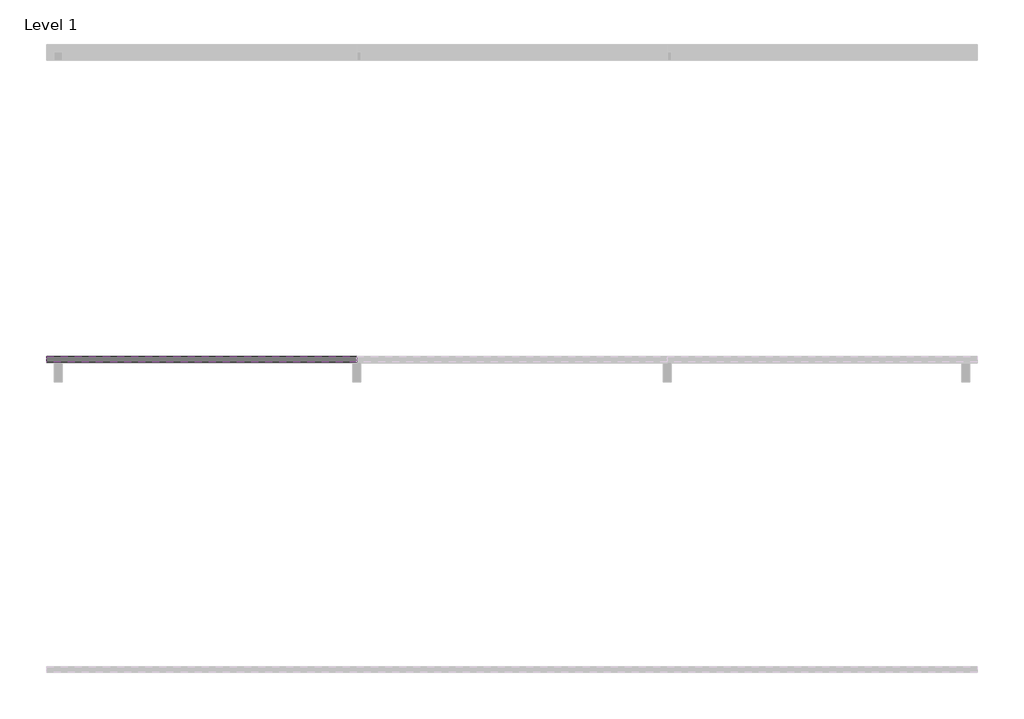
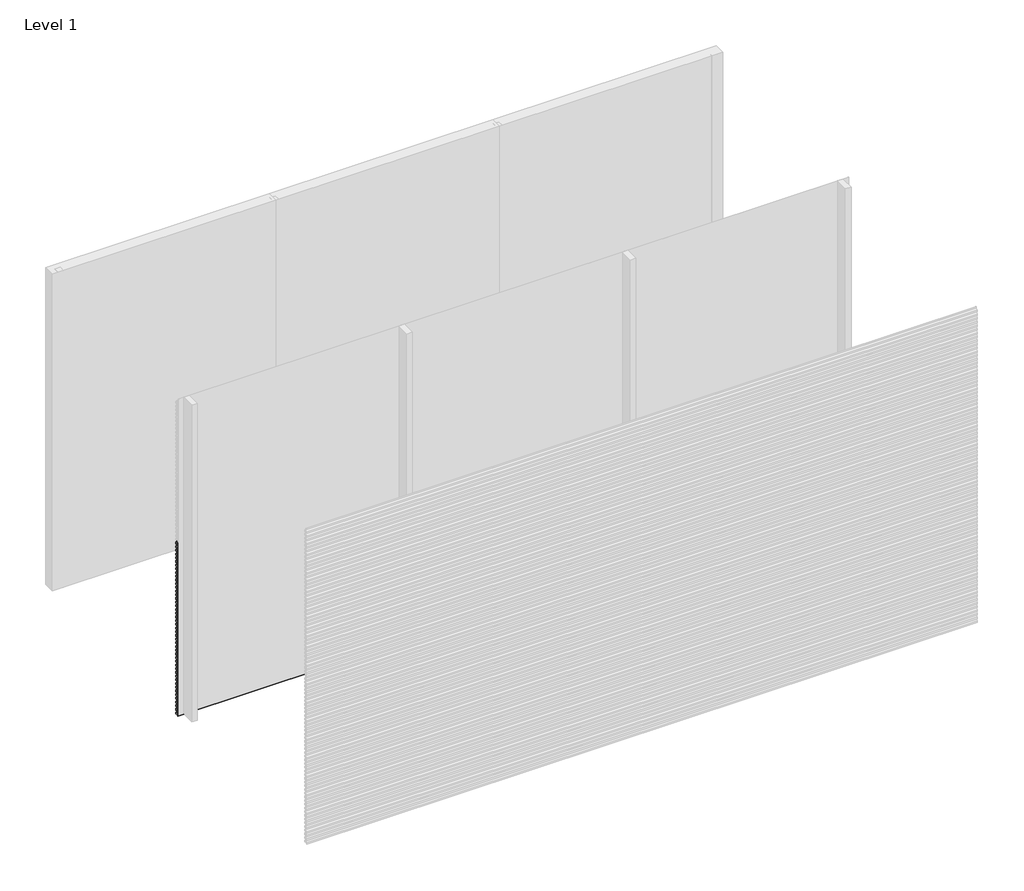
# One storey, part 3 of 17: 81 proxies.
"""IFC4 building model written with IfcOpenShell, lengths in millimetres."""

from ifc_helpers import new_model, si_unit, frame, origin, place, context, project, spatial, polyline, outline, extrude, element, save

model = new_model("IFC4")

# Units and contexts
model_context = context("Model", 3, world=origin())
ifc_project = project(units=[si_unit("LENGTHUNIT", "METRE", prefix="MILLI")], contexts=[model_context])

# Site, building, storey
site = spatial("IfcSite", under=ifc_project)
building = spatial("IfcBuilding", under=site)
storey = spatial("IfcBuildingStorey", under=building, Name="Level 1", Elevation=0.0)

# Proxies
placement = place(None, origin())
element("IfcBuildingElementProxy", 1, Name="Wall Sweeps", at=placement, inside=storey, context=model_context, shape_type="SweptSolid", body=[
    extrude(outline(polyline([(-17961.0, 2951.5), (-17961.0, 2936.5), (-17979.0, 2948.6411533), (-17997.0, 2936.5), (-17997.0, 2951.5), (-17980.0, 2962.9666448), (-17980.0, 2975.0), (-17978.0, 2975.0), (-17978.0, 2962.9666448), (-17961.0, 2951.5)])), frame((2000.0000001, 0.0, 0.0), z_axis=(1.0, 0.0, 0.0), x_axis=(0.0, 1.0, 0.0)), (0.0, 0.0, 1.0), 1999.9999998),
])
element("IfcBuildingElementProxy", 2, Name="Wall Sweeps", at=placement, inside=storey, context=model_context, shape_type="SweptSolid", body=[
    extrude(outline(polyline([(-17961.0, 2916.5), (-17961.0, 2901.5), (-17979.0, 2913.6411533), (-17997.0, 2901.5), (-17997.0, 2916.5), (-17980.0, 2927.9666448), (-17980.0, 2940.0), (-17978.0, 2940.0), (-17978.0, 2927.9666448), (-17961.0, 2916.5)])), frame((2000.0000001, 0.0, 0.0), z_axis=(1.0, 0.0, 0.0), x_axis=(0.0, 1.0, 0.0)), (0.0, 0.0, 1.0), 1999.9999998),
])
element("IfcBuildingElementProxy", 3, Name="Wall Sweeps", at=placement, inside=storey, context=model_context, shape_type="SweptSolid", body=[
    extrude(outline(polyline([(-17961.0, 2881.5), (-17961.0, 2866.5), (-17979.0, 2878.6411533), (-17997.0, 2866.5), (-17997.0, 2881.5), (-17980.0, 2892.9666448), (-17980.0, 2905.0), (-17978.0, 2905.0), (-17978.0, 2892.9666448), (-17961.0, 2881.5)])), frame((2000.0000001, 0.0, 0.0), z_axis=(1.0, 0.0, 0.0), x_axis=(0.0, 1.0, 0.0)), (0.0, 0.0, 1.0), 1999.9999998),
])
element("IfcBuildingElementProxy", 4, Name="Wall Sweeps", at=placement, inside=storey, context=model_context, shape_type="SweptSolid", body=[
    extrude(outline(polyline([(-17961.0, 2846.5), (-17961.0, 2831.5), (-17979.0, 2843.6411533), (-17997.0, 2831.5), (-17997.0, 2846.5), (-17980.0, 2857.9666448), (-17980.0, 2870.0), (-17978.0, 2870.0), (-17978.0, 2857.9666448), (-17961.0, 2846.5)])), frame((2000.0000001, 0.0, 0.0), z_axis=(1.0, 0.0, 0.0), x_axis=(0.0, 1.0, 0.0)), (0.0, 0.0, 1.0), 1999.9999998),
])
element("IfcBuildingElementProxy", 5, Name="Wall Sweeps", at=placement, inside=storey, context=model_context, shape_type="SweptSolid", body=[
    extrude(outline(polyline([(-17961.0, 2811.5), (-17961.0, 2796.5), (-17979.0, 2808.6411533), (-17997.0, 2796.5), (-17997.0, 2811.5), (-17980.0, 2822.9666448), (-17980.0, 2835.0), (-17978.0, 2835.0), (-17978.0, 2822.9666448), (-17961.0, 2811.5)])), frame((2000.0000001, 0.0, 0.0), z_axis=(1.0, 0.0, 0.0), x_axis=(0.0, 1.0, 0.0)), (0.0, 0.0, 1.0), 1999.9999998),
])
element("IfcBuildingElementProxy", 6, Name="Wall Sweeps", at=placement, inside=storey, context=model_context, shape_type="SweptSolid", body=[
    extrude(outline(polyline([(-17961.0, 2776.5), (-17961.0, 2761.5), (-17979.0, 2773.6411533), (-17997.0, 2761.5), (-17997.0, 2776.5), (-17980.0, 2787.9666448), (-17980.0, 2800.0), (-17978.0, 2800.0), (-17978.0, 2787.9666448), (-17961.0, 2776.5)])), frame((2000.0000001, 0.0, 0.0), z_axis=(1.0, 0.0, 0.0), x_axis=(0.0, 1.0, 0.0)), (0.0, 0.0, 1.0), 1999.9999998),
])
element("IfcBuildingElementProxy", 7, Name="Wall Sweeps", at=placement, inside=storey, context=model_context, shape_type="SweptSolid", body=[
    extrude(outline(polyline([(-17961.0, 2741.5), (-17961.0, 2726.5), (-17979.0, 2738.6411533), (-17997.0, 2726.5), (-17997.0, 2741.5), (-17980.0, 2752.9666448), (-17980.0, 2765.0), (-17978.0, 2765.0), (-17978.0, 2752.9666448), (-17961.0, 2741.5)])), frame((2000.0000001, 0.0, 0.0), z_axis=(1.0, 0.0, 0.0), x_axis=(0.0, 1.0, 0.0)), (0.0, 0.0, 1.0), 1999.9999998),
])
element("IfcBuildingElementProxy", 8, Name="Wall Sweeps", at=placement, inside=storey, context=model_context, shape_type="SweptSolid", body=[
    extrude(outline(polyline([(-17961.0, 2706.5), (-17961.0, 2691.5), (-17979.0, 2703.6411533), (-17997.0, 2691.5), (-17997.0, 2706.5), (-17980.0, 2717.9666448), (-17980.0, 2730.0), (-17978.0, 2730.0), (-17978.0, 2717.9666448), (-17961.0, 2706.5)])), frame((2000.0000001, 0.0, 0.0), z_axis=(1.0, 0.0, 0.0), x_axis=(0.0, 1.0, 0.0)), (0.0, 0.0, 1.0), 1999.9999998),
])
element("IfcBuildingElementProxy", 9, Name="Wall Sweeps", at=placement, inside=storey, context=model_context, shape_type="SweptSolid", body=[
    extrude(outline(polyline([(-17961.0, 2671.5), (-17961.0, 2656.5), (-17979.0, 2668.6411533), (-17997.0, 2656.5), (-17997.0, 2671.5), (-17980.0, 2682.9666448), (-17980.0, 2695.0), (-17978.0, 2695.0), (-17978.0, 2682.9666448), (-17961.0, 2671.5)])), frame((2000.0000001, 0.0, 0.0), z_axis=(1.0, 0.0, 0.0), x_axis=(0.0, 1.0, 0.0)), (0.0, 0.0, 1.0), 1999.9999998),
])
element("IfcBuildingElementProxy", 10, Name="Wall Sweeps", at=placement, inside=storey, context=model_context, shape_type="SweptSolid", body=[
    extrude(outline(polyline([(-17961.0, 2636.5), (-17961.0, 2621.5), (-17979.0, 2633.6411533), (-17997.0, 2621.5), (-17997.0, 2636.5), (-17980.0, 2647.9666448), (-17980.0, 2660.0), (-17978.0, 2660.0), (-17978.0, 2647.9666448), (-17961.0, 2636.5)])), frame((2000.0000001, 0.0, 0.0), z_axis=(1.0, 0.0, 0.0), x_axis=(0.0, 1.0, 0.0)), (0.0, 0.0, 1.0), 1999.9999998),
])
element("IfcBuildingElementProxy", 11, Name="Wall Sweeps", at=placement, inside=storey, context=model_context, shape_type="SweptSolid", body=[
    extrude(outline(polyline([(-17961.0, 2601.5), (-17961.0, 2586.5), (-17979.0, 2598.6411533), (-17997.0, 2586.5), (-17997.0, 2601.5), (-17980.0, 2612.9666448), (-17980.0, 2625.0), (-17978.0, 2625.0), (-17978.0, 2612.9666448), (-17961.0, 2601.5)])), frame((2000.0000001, 0.0, 0.0), z_axis=(1.0, 0.0, 0.0), x_axis=(0.0, 1.0, 0.0)), (0.0, 0.0, 1.0), 1999.9999998),
])
element("IfcBuildingElementProxy", 12, Name="Wall Sweeps", at=placement, inside=storey, context=model_context, shape_type="SweptSolid", body=[
    extrude(outline(polyline([(-17961.0, 2566.5), (-17961.0, 2551.5), (-17979.0, 2563.6411533), (-17997.0, 2551.5), (-17997.0, 2566.5), (-17980.0, 2577.9666448), (-17980.0, 2590.0), (-17978.0, 2590.0), (-17978.0, 2577.9666448), (-17961.0, 2566.5)])), frame((2000.0000001, 0.0, 0.0), z_axis=(1.0, 0.0, 0.0), x_axis=(0.0, 1.0, 0.0)), (0.0, 0.0, 1.0), 1999.9999998),
])
element("IfcBuildingElementProxy", 13, Name="Wall Sweeps", at=placement, inside=storey, context=model_context, shape_type="SweptSolid", body=[
    extrude(outline(polyline([(-17961.0, 2531.5), (-17961.0, 2516.5), (-17979.0, 2528.6411533), (-17997.0, 2516.5), (-17997.0, 2531.5), (-17980.0, 2542.9666448), (-17980.0, 2555.0), (-17978.0, 2555.0), (-17978.0, 2542.9666448), (-17961.0, 2531.5)])), frame((2000.0000001, 0.0, 0.0), z_axis=(1.0, 0.0, 0.0), x_axis=(0.0, 1.0, 0.0)), (0.0, 0.0, 1.0), 1999.9999998),
])
element("IfcBuildingElementProxy", 14, Name="Wall Sweeps", at=placement, inside=storey, context=model_context, shape_type="SweptSolid", body=[
    extrude(outline(polyline([(-17961.0, 2496.5), (-17961.0, 2481.5), (-17979.0, 2493.6411533), (-17997.0, 2481.5), (-17997.0, 2496.5), (-17980.0, 2507.9666448), (-17980.0, 2520.0), (-17978.0, 2520.0), (-17978.0, 2507.9666448), (-17961.0, 2496.5)])), frame((2000.0000001, 0.0, 0.0), z_axis=(1.0, 0.0, 0.0), x_axis=(0.0, 1.0, 0.0)), (0.0, 0.0, 1.0), 1999.9999998),
])
element("IfcBuildingElementProxy", 15, Name="Wall Sweeps", at=placement, inside=storey, context=model_context, shape_type="SweptSolid", body=[
    extrude(outline(polyline([(-17961.0, 2461.5), (-17961.0, 2446.5), (-17979.0, 2458.6411533), (-17997.0, 2446.5), (-17997.0, 2461.5), (-17980.0, 2472.9666448), (-17980.0, 2485.0), (-17978.0, 2485.0), (-17978.0, 2472.9666448), (-17961.0, 2461.5)])), frame((2000.0000001, 0.0, 0.0), z_axis=(1.0, 0.0, 0.0), x_axis=(0.0, 1.0, 0.0)), (0.0, 0.0, 1.0), 1999.9999998),
])
element("IfcBuildingElementProxy", 16, Name="Wall Sweeps", at=placement, inside=storey, context=model_context, shape_type="SweptSolid", body=[
    extrude(outline(polyline([(-17961.0, 2426.5), (-17961.0, 2411.5), (-17979.0, 2423.6411533), (-17997.0, 2411.5), (-17997.0, 2426.5), (-17980.0, 2437.9666448), (-17980.0, 2450.0), (-17978.0, 2450.0), (-17978.0, 2437.9666448), (-17961.0, 2426.5)])), frame((2000.0000001, 0.0, 0.0), z_axis=(1.0, 0.0, 0.0), x_axis=(0.0, 1.0, 0.0)), (0.0, 0.0, 1.0), 1999.9999998),
])
element("IfcBuildingElementProxy", 17, Name="Wall Sweeps", at=placement, inside=storey, context=model_context, shape_type="SweptSolid", body=[
    extrude(outline(polyline([(-17961.0, 2391.5), (-17961.0, 2376.5), (-17979.0, 2388.6411533), (-17997.0, 2376.5), (-17997.0, 2391.5), (-17980.0, 2402.9666448), (-17980.0, 2415.0), (-17978.0, 2415.0), (-17978.0, 2402.9666448), (-17961.0, 2391.5)])), frame((2000.0000001, 0.0, 0.0), z_axis=(1.0, 0.0, 0.0), x_axis=(0.0, 1.0, 0.0)), (0.0, 0.0, 1.0), 1999.9999998),
])
element("IfcBuildingElementProxy", 18, Name="Wall Sweeps", at=placement, inside=storey, context=model_context, shape_type="SweptSolid", body=[
    extrude(outline(polyline([(-17961.0, 2356.5), (-17961.0, 2341.5), (-17979.0, 2353.6411533), (-17997.0, 2341.5), (-17997.0, 2356.5), (-17980.0, 2367.9666448), (-17980.0, 2380.0), (-17978.0, 2380.0), (-17978.0, 2367.9666448), (-17961.0, 2356.5)])), frame((2000.0000001, 0.0, 0.0), z_axis=(1.0, 0.0, 0.0), x_axis=(0.0, 1.0, 0.0)), (0.0, 0.0, 1.0), 1999.9999998),
])
element("IfcBuildingElementProxy", 19, Name="Wall Sweeps", at=placement, inside=storey, context=model_context, shape_type="SweptSolid", body=[
    extrude(outline(polyline([(-17961.0, 2321.5), (-17961.0, 2306.5), (-17979.0, 2318.6411533), (-17997.0, 2306.5), (-17997.0, 2321.5), (-17980.0, 2332.9666448), (-17980.0, 2345.0), (-17978.0, 2345.0), (-17978.0, 2332.9666448), (-17961.0, 2321.5)])), frame((2000.0000001, 0.0, 0.0), z_axis=(1.0, 0.0, 0.0), x_axis=(0.0, 1.0, 0.0)), (0.0, 0.0, 1.0), 1999.9999998),
])
element("IfcBuildingElementProxy", 20, Name="Wall Sweeps", at=placement, inside=storey, context=model_context, shape_type="SweptSolid", body=[
    extrude(outline(polyline([(-17961.0, 2286.5), (-17961.0, 2271.5), (-17979.0, 2283.6411533), (-17997.0, 2271.5), (-17997.0, 2286.5), (-17980.0, 2297.9666448), (-17980.0, 2310.0), (-17978.0, 2310.0), (-17978.0, 2297.9666448), (-17961.0, 2286.5)])), frame((2000.0000001, 0.0, 0.0), z_axis=(1.0, 0.0, 0.0), x_axis=(0.0, 1.0, 0.0)), (0.0, 0.0, 1.0), 1999.9999998),
])
element("IfcBuildingElementProxy", 21, Name="Wall Sweeps", at=placement, inside=storey, context=model_context, shape_type="SweptSolid", body=[
    extrude(outline(polyline([(-17961.0, 2251.5), (-17961.0, 2236.5), (-17979.0, 2248.6411533), (-17997.0, 2236.5), (-17997.0, 2251.5), (-17980.0, 2262.9666448), (-17980.0, 2275.0), (-17978.0, 2275.0), (-17978.0, 2262.9666448), (-17961.0, 2251.5)])), frame((2000.0000001, 0.0, 0.0), z_axis=(1.0, 0.0, 0.0), x_axis=(0.0, 1.0, 0.0)), (0.0, 0.0, 1.0), 1999.9999998),
])
element("IfcBuildingElementProxy", 22, Name="Wall Sweeps", at=placement, inside=storey, context=model_context, shape_type="SweptSolid", body=[
    extrude(outline(polyline([(-17961.0, 2216.5), (-17961.0, 2201.5), (-17979.0, 2213.6411533), (-17997.0, 2201.5), (-17997.0, 2216.5), (-17980.0, 2227.9666448), (-17980.0, 2240.0), (-17978.0, 2240.0), (-17978.0, 2227.9666448), (-17961.0, 2216.5)])), frame((2000.0000001, 0.0, 0.0), z_axis=(1.0, 0.0, 0.0), x_axis=(0.0, 1.0, 0.0)), (0.0, 0.0, 1.0), 1999.9999998),
])
element("IfcBuildingElementProxy", 23, Name="Wall Sweeps", at=placement, inside=storey, context=model_context, shape_type="SweptSolid", body=[
    extrude(outline(polyline([(-17961.0, 2181.5), (-17961.0, 2166.5), (-17979.0, 2178.6411533), (-17997.0, 2166.5), (-17997.0, 2181.5), (-17980.0, 2192.9666448), (-17980.0, 2205.0), (-17978.0, 2205.0), (-17978.0, 2192.9666448), (-17961.0, 2181.5)])), frame((2000.0000001, 0.0, 0.0), z_axis=(1.0, 0.0, 0.0), x_axis=(0.0, 1.0, 0.0)), (0.0, 0.0, 1.0), 1999.9999998),
])
element("IfcBuildingElementProxy", 24, Name="Wall Sweeps", at=placement, inside=storey, context=model_context, shape_type="SweptSolid", body=[
    extrude(outline(polyline([(-17961.0, 2146.5), (-17961.0, 2131.5), (-17979.0, 2143.6411533), (-17997.0, 2131.5), (-17997.0, 2146.5), (-17980.0, 2157.9666448), (-17980.0, 2170.0), (-17978.0, 2170.0), (-17978.0, 2157.9666448), (-17961.0, 2146.5)])), frame((2000.0000001, 0.0, 0.0), z_axis=(1.0, 0.0, 0.0), x_axis=(0.0, 1.0, 0.0)), (0.0, 0.0, 1.0), 1999.9999998),
])
element("IfcBuildingElementProxy", 25, Name="Wall Sweeps", at=placement, inside=storey, context=model_context, shape_type="SweptSolid", body=[
    extrude(outline(polyline([(-17961.0, 2111.5), (-17961.0, 2096.5), (-17979.0, 2108.6411533), (-17997.0, 2096.5), (-17997.0, 2111.5), (-17980.0, 2122.9666448), (-17980.0, 2135.0), (-17978.0, 2135.0), (-17978.0, 2122.9666448), (-17961.0, 2111.5)])), frame((2000.0000001, 0.0, 0.0), z_axis=(1.0, 0.0, 0.0), x_axis=(0.0, 1.0, 0.0)), (0.0, 0.0, 1.0), 1999.9999998),
])
element("IfcBuildingElementProxy", 26, Name="Wall Sweeps", at=placement, inside=storey, context=model_context, shape_type="SweptSolid", body=[
    extrude(outline(polyline([(-17961.0, 2076.5), (-17961.0, 2061.5), (-17979.0, 2073.6411533), (-17997.0, 2061.5), (-17997.0, 2076.5), (-17980.0, 2087.9666448), (-17980.0, 2100.0), (-17978.0, 2100.0), (-17978.0, 2087.9666448), (-17961.0, 2076.5)])), frame((2000.0000001, 0.0, 0.0), z_axis=(1.0, 0.0, 0.0), x_axis=(0.0, 1.0, 0.0)), (0.0, 0.0, 1.0), 1999.9999998),
])
element("IfcBuildingElementProxy", 27, Name="Wall Sweeps", at=placement, inside=storey, context=model_context, shape_type="SweptSolid", body=[
    extrude(outline(polyline([(-17961.0, 2041.5), (-17961.0, 2026.5), (-17979.0, 2038.6411533), (-17997.0, 2026.5), (-17997.0, 2041.5), (-17980.0, 2052.9666448), (-17980.0, 2065.0), (-17978.0, 2065.0), (-17978.0, 2052.9666448), (-17961.0, 2041.5)])), frame((2000.0000001, 0.0, 0.0), z_axis=(1.0, 0.0, 0.0), x_axis=(0.0, 1.0, 0.0)), (0.0, 0.0, 1.0), 1999.9999998),
])
element("IfcBuildingElementProxy", 28, Name="Wall Sweeps", at=placement, inside=storey, context=model_context, shape_type="SweptSolid", body=[
    extrude(outline(polyline([(-17961.0, 2006.5), (-17961.0, 1991.5), (-17979.0, 2003.6411533), (-17997.0, 1991.5), (-17997.0, 2006.5), (-17980.0, 2017.9666448), (-17980.0, 2030.0), (-17978.0, 2030.0), (-17978.0, 2017.9666448), (-17961.0, 2006.5)])), frame((2000.0000001, 0.0, 0.0), z_axis=(1.0, 0.0, 0.0), x_axis=(0.0, 1.0, 0.0)), (0.0, 0.0, 1.0), 1999.9999998),
])
element("IfcBuildingElementProxy", 29, Name="Wall Sweeps", at=placement, inside=storey, context=model_context, shape_type="SweptSolid", body=[
    extrude(outline(polyline([(-17961.0, 1971.5), (-17961.0, 1956.5), (-17979.0, 1968.6411533), (-17997.0, 1956.5), (-17997.0, 1971.5), (-17980.0, 1982.9666448), (-17980.0, 1995.0), (-17978.0, 1995.0), (-17978.0, 1982.9666448), (-17961.0, 1971.5)])), frame((2000.0000001, 0.0, 0.0), z_axis=(1.0, 0.0, 0.0), x_axis=(0.0, 1.0, 0.0)), (0.0, 0.0, 1.0), 1999.9999998),
])
element("IfcBuildingElementProxy", 30, Name="Wall Sweeps", at=placement, inside=storey, context=model_context, shape_type="SweptSolid", body=[
    extrude(outline(polyline([(-17961.0, 1936.5), (-17961.0, 1921.5), (-17979.0, 1933.6411533), (-17997.0, 1921.5), (-17997.0, 1936.5), (-17980.0, 1947.9666448), (-17980.0, 1960.0), (-17978.0, 1960.0), (-17978.0, 1947.9666448), (-17961.0, 1936.5)])), frame((2000.0000001, 0.0, 0.0), z_axis=(1.0, 0.0, 0.0), x_axis=(0.0, 1.0, 0.0)), (0.0, 0.0, 1.0), 1999.9999998),
])
element("IfcBuildingElementProxy", 31, Name="Wall Sweeps", at=placement, inside=storey, context=model_context, shape_type="SweptSolid", body=[
    extrude(outline(polyline([(-17961.0, 1901.5), (-17961.0, 1886.5), (-17979.0, 1898.6411533), (-17997.0, 1886.5), (-17997.0, 1901.5), (-17980.0, 1912.9666448), (-17980.0, 1925.0), (-17978.0, 1925.0), (-17978.0, 1912.9666448), (-17961.0, 1901.5)])), frame((2000.0000001, 0.0, 0.0), z_axis=(1.0, 0.0, 0.0), x_axis=(0.0, 1.0, 0.0)), (0.0, 0.0, 1.0), 1999.9999998),
])
element("IfcBuildingElementProxy", 32, Name="Wall Sweeps", at=placement, inside=storey, context=model_context, shape_type="SweptSolid", body=[
    extrude(outline(polyline([(-17961.0, 1866.5), (-17961.0, 1851.5), (-17979.0, 1863.6411533), (-17997.0, 1851.5), (-17997.0, 1866.5), (-17980.0, 1877.9666448), (-17980.0, 1890.0), (-17978.0, 1890.0), (-17978.0, 1877.9666448), (-17961.0, 1866.5)])), frame((2000.0000001, 0.0, 0.0), z_axis=(1.0, 0.0, 0.0), x_axis=(0.0, 1.0, 0.0)), (0.0, 0.0, 1.0), 1999.9999998),
])
element("IfcBuildingElementProxy", 33, Name="Wall Sweeps", at=placement, inside=storey, context=model_context, shape_type="SweptSolid", body=[
    extrude(outline(polyline([(-17961.0, 1831.5), (-17961.0, 1816.5), (-17979.0, 1828.6411533), (-17997.0, 1816.5), (-17997.0, 1831.5), (-17980.0, 1842.9666448), (-17980.0, 1855.0), (-17978.0, 1855.0), (-17978.0, 1842.9666448), (-17961.0, 1831.5)])), frame((2000.0000001, 0.0, 0.0), z_axis=(1.0, 0.0, 0.0), x_axis=(0.0, 1.0, 0.0)), (0.0, 0.0, 1.0), 1999.9999998),
])
element("IfcBuildingElementProxy", 34, Name="Wall Sweeps", at=placement, inside=storey, context=model_context, shape_type="SweptSolid", body=[
    extrude(outline(polyline([(-17961.0, 1796.5), (-17961.0, 1781.5), (-17979.0, 1793.6411533), (-17997.0, 1781.5), (-17997.0, 1796.5), (-17980.0, 1807.9666448), (-17980.0, 1820.0), (-17978.0, 1820.0), (-17978.0, 1807.9666448), (-17961.0, 1796.5)])), frame((2000.0000001, 0.0, 0.0), z_axis=(1.0, 0.0, 0.0), x_axis=(0.0, 1.0, 0.0)), (0.0, 0.0, 1.0), 1999.9999998),
])
element("IfcBuildingElementProxy", 35, Name="Wall Sweeps", at=placement, inside=storey, context=model_context, shape_type="SweptSolid", body=[
    extrude(outline(polyline([(-17961.0, 1621.5), (-17961.0, 1606.5), (-17979.0, 1618.6411533), (-17997.0, 1606.5), (-17997.0, 1621.5), (-17980.0, 1632.9666448), (-17980.0, 1645.0), (-17978.0, 1645.0), (-17978.0, 1632.9666448), (-17961.0, 1621.5)])), frame((0.0, 0.0, 0.0), z_axis=(1.0, 0.0, 0.0), x_axis=(0.0, 1.0, 0.0)), (0.0, 0.0, 1.0), 2000.0000001),
])
element("IfcBuildingElementProxy", 36, Name="Wall Sweeps", at=placement, inside=storey, context=model_context, shape_type="SweptSolid", body=[
    extrude(outline(polyline([(-17961.0, 1586.5), (-17961.0, 1571.5), (-17979.0, 1583.6411533), (-17997.0, 1571.5), (-17997.0, 1586.5), (-17980.0, 1597.9666448), (-17980.0, 1610.0), (-17978.0, 1610.0), (-17978.0, 1597.9666448), (-17961.0, 1586.5)])), frame((0.0, 0.0, 0.0), z_axis=(1.0, 0.0, 0.0), x_axis=(0.0, 1.0, 0.0)), (0.0, 0.0, 1.0), 2000.0000001),
])
element("IfcBuildingElementProxy", 37, Name="Wall Sweeps", at=placement, inside=storey, context=model_context, shape_type="SweptSolid", body=[
    extrude(outline(polyline([(-17961.0, 1551.5), (-17961.0, 1536.5), (-17979.0, 1548.6411533), (-17997.0, 1536.5), (-17997.0, 1551.5), (-17980.0, 1562.9666448), (-17980.0, 1575.0), (-17978.0, 1575.0), (-17978.0, 1562.9666448), (-17961.0, 1551.5)])), frame((0.0, 0.0, 0.0), z_axis=(1.0, 0.0, 0.0), x_axis=(0.0, 1.0, 0.0)), (0.0, 0.0, 1.0), 2000.0000001),
])
element("IfcBuildingElementProxy", 38, Name="Wall Sweeps", at=placement, inside=storey, context=model_context, shape_type="SweptSolid", body=[
    extrude(outline(polyline([(-17961.0, 1516.5), (-17961.0, 1501.5), (-17979.0, 1513.6411533), (-17997.0, 1501.5), (-17997.0, 1516.5), (-17980.0, 1527.9666448), (-17980.0, 1540.0), (-17978.0, 1540.0), (-17978.0, 1527.9666448), (-17961.0, 1516.5)])), frame((0.0, 0.0, 0.0), z_axis=(1.0, 0.0, 0.0), x_axis=(0.0, 1.0, 0.0)), (0.0, 0.0, 1.0), 2000.0000001),
])
element("IfcBuildingElementProxy", 39, Name="Wall Sweeps", at=placement, inside=storey, context=model_context, shape_type="SweptSolid", body=[
    extrude(outline(polyline([(-17961.0, 1481.5), (-17961.0, 1466.5), (-17979.0, 1478.6411533), (-17997.0, 1466.5), (-17997.0, 1481.5), (-17980.0, 1492.9666448), (-17980.0, 1505.0), (-17978.0, 1505.0), (-17978.0, 1492.9666448), (-17961.0, 1481.5)])), frame((0.0, 0.0, 0.0), z_axis=(1.0, 0.0, 0.0), x_axis=(0.0, 1.0, 0.0)), (0.0, 0.0, 1.0), 2000.0000001),
])
element("IfcBuildingElementProxy", 40, Name="Wall Sweeps", at=placement, inside=storey, context=model_context, shape_type="SweptSolid", body=[
    extrude(outline(polyline([(-17961.0, 1446.5), (-17961.0, 1431.5), (-17979.0, 1443.6411533), (-17997.0, 1431.5), (-17997.0, 1446.5), (-17980.0, 1457.9666448), (-17980.0, 1470.0), (-17978.0, 1470.0), (-17978.0, 1457.9666448), (-17961.0, 1446.5)])), frame((0.0, 0.0, 0.0), z_axis=(1.0, 0.0, 0.0), x_axis=(0.0, 1.0, 0.0)), (0.0, 0.0, 1.0), 2000.0000001),
])
element("IfcBuildingElementProxy", 41, Name="Wall Sweeps", at=placement, inside=storey, context=model_context, shape_type="SweptSolid", body=[
    extrude(outline(polyline([(-17961.0, 1411.5), (-17961.0, 1396.5), (-17979.0, 1408.6411533), (-17997.0, 1396.5), (-17997.0, 1411.5), (-17980.0, 1422.9666448), (-17980.0, 1435.0), (-17978.0, 1435.0), (-17978.0, 1422.9666448), (-17961.0, 1411.5)])), frame((0.0, 0.0, 0.0), z_axis=(1.0, 0.0, 0.0), x_axis=(0.0, 1.0, 0.0)), (0.0, 0.0, 1.0), 2000.0000001),
])
element("IfcBuildingElementProxy", 42, Name="Wall Sweeps", at=placement, inside=storey, context=model_context, shape_type="SweptSolid", body=[
    extrude(outline(polyline([(-17961.0, 1376.5), (-17961.0, 1361.5), (-17979.0, 1373.6411533), (-17997.0, 1361.5), (-17997.0, 1376.5), (-17980.0, 1387.9666448), (-17980.0, 1400.0), (-17978.0, 1400.0), (-17978.0, 1387.9666448), (-17961.0, 1376.5)])), frame((0.0, 0.0, 0.0), z_axis=(1.0, 0.0, 0.0), x_axis=(0.0, 1.0, 0.0)), (0.0, 0.0, 1.0), 2000.0000001),
])
element("IfcBuildingElementProxy", 43, Name="Wall Sweeps", at=placement, inside=storey, context=model_context, shape_type="SweptSolid", body=[
    extrude(outline(polyline([(-17961.0, 1341.5), (-17961.0, 1326.5), (-17979.0, 1338.6411533), (-17997.0, 1326.5), (-17997.0, 1341.5), (-17980.0, 1352.9666448), (-17980.0, 1365.0), (-17978.0, 1365.0), (-17978.0, 1352.9666448), (-17961.0, 1341.5)])), frame((0.0, 0.0, 0.0), z_axis=(1.0, 0.0, 0.0), x_axis=(0.0, 1.0, 0.0)), (0.0, 0.0, 1.0), 2000.0000001),
])
element("IfcBuildingElementProxy", 44, Name="Wall Sweeps", at=placement, inside=storey, context=model_context, shape_type="SweptSolid", body=[
    extrude(outline(polyline([(-17961.0, 1306.5), (-17961.0, 1291.5), (-17979.0, 1303.6411533), (-17997.0, 1291.5), (-17997.0, 1306.5), (-17980.0, 1317.9666448), (-17980.0, 1330.0), (-17978.0, 1330.0), (-17978.0, 1317.9666448), (-17961.0, 1306.5)])), frame((0.0, 0.0, 0.0), z_axis=(1.0, 0.0, 0.0), x_axis=(0.0, 1.0, 0.0)), (0.0, 0.0, 1.0), 2000.0000001),
])
element("IfcBuildingElementProxy", 45, Name="Wall Sweeps", at=placement, inside=storey, context=model_context, shape_type="SweptSolid", body=[
    extrude(outline(polyline([(-17961.0, 1271.5), (-17961.0, 1256.5), (-17979.0, 1268.6411533), (-17997.0, 1256.5), (-17997.0, 1271.5), (-17980.0, 1282.9666448), (-17980.0, 1295.0), (-17978.0, 1295.0), (-17978.0, 1282.9666448), (-17961.0, 1271.5)])), frame((0.0, 0.0, 0.0), z_axis=(1.0, 0.0, 0.0), x_axis=(0.0, 1.0, 0.0)), (0.0, 0.0, 1.0), 2000.0000001),
])
element("IfcBuildingElementProxy", 46, Name="Wall Sweeps", at=placement, inside=storey, context=model_context, shape_type="SweptSolid", body=[
    extrude(outline(polyline([(-17961.0, 1236.5), (-17961.0, 1221.5), (-17979.0, 1233.6411533), (-17997.0, 1221.5), (-17997.0, 1236.5), (-17980.0, 1247.9666448), (-17980.0, 1260.0), (-17978.0, 1260.0), (-17978.0, 1247.9666448), (-17961.0, 1236.5)])), frame((0.0, 0.0, 0.0), z_axis=(1.0, 0.0, 0.0), x_axis=(0.0, 1.0, 0.0)), (0.0, 0.0, 1.0), 2000.0000001),
])
element("IfcBuildingElementProxy", 47, Name="Wall Sweeps", at=placement, inside=storey, context=model_context, shape_type="SweptSolid", body=[
    extrude(outline(polyline([(-17961.0, 1201.5), (-17961.0, 1186.5), (-17979.0, 1198.6411533), (-17997.0, 1186.5), (-17997.0, 1201.5), (-17980.0, 1212.9666448), (-17980.0, 1225.0), (-17978.0, 1225.0), (-17978.0, 1212.9666448), (-17961.0, 1201.5)])), frame((0.0, 0.0, 0.0), z_axis=(1.0, 0.0, 0.0), x_axis=(0.0, 1.0, 0.0)), (0.0, 0.0, 1.0), 2000.0000001),
])
element("IfcBuildingElementProxy", 48, Name="Wall Sweeps", at=placement, inside=storey, context=model_context, shape_type="SweptSolid", body=[
    extrude(outline(polyline([(-17961.0, 1166.5), (-17961.0, 1151.5), (-17979.0, 1163.6411533), (-17997.0, 1151.5), (-17997.0, 1166.5), (-17980.0, 1177.9666448), (-17980.0, 1190.0), (-17978.0, 1190.0), (-17978.0, 1177.9666448), (-17961.0, 1166.5)])), frame((0.0, 0.0, 0.0), z_axis=(1.0, 0.0, 0.0), x_axis=(0.0, 1.0, 0.0)), (0.0, 0.0, 1.0), 2000.0000001),
])
element("IfcBuildingElementProxy", 49, Name="Wall Sweeps", at=placement, inside=storey, context=model_context, shape_type="SweptSolid", body=[
    extrude(outline(polyline([(-17961.0, 1131.5), (-17961.0, 1116.5), (-17979.0, 1128.6411533), (-17997.0, 1116.5), (-17997.0, 1131.5), (-17980.0, 1142.9666448), (-17980.0, 1155.0), (-17978.0, 1155.0), (-17978.0, 1142.9666448), (-17961.0, 1131.5)])), frame((0.0, 0.0, 0.0), z_axis=(1.0, 0.0, 0.0), x_axis=(0.0, 1.0, 0.0)), (0.0, 0.0, 1.0), 2000.0000001),
])
element("IfcBuildingElementProxy", 50, Name="Wall Sweeps", at=placement, inside=storey, context=model_context, shape_type="SweptSolid", body=[
    extrude(outline(polyline([(-17961.0, 1096.5), (-17961.0, 1081.5), (-17979.0, 1093.6411533), (-17997.0, 1081.5), (-17997.0, 1096.5), (-17980.0, 1107.9666448), (-17980.0, 1120.0), (-17978.0, 1120.0), (-17978.0, 1107.9666448), (-17961.0, 1096.5)])), frame((0.0, 0.0, 0.0), z_axis=(1.0, 0.0, 0.0), x_axis=(0.0, 1.0, 0.0)), (0.0, 0.0, 1.0), 2000.0000001),
])
element("IfcBuildingElementProxy", 51, Name="Wall Sweeps", at=placement, inside=storey, context=model_context, shape_type="SweptSolid", body=[
    extrude(outline(polyline([(-17961.0, 1061.5), (-17961.0, 1046.5), (-17979.0, 1058.6411533), (-17997.0, 1046.5), (-17997.0, 1061.5), (-17980.0, 1072.9666448), (-17980.0, 1085.0), (-17978.0, 1085.0), (-17978.0, 1072.9666448), (-17961.0, 1061.5)])), frame((0.0, 0.0, 0.0), z_axis=(1.0, 0.0, 0.0), x_axis=(0.0, 1.0, 0.0)), (0.0, 0.0, 1.0), 2000.0000001),
])
element("IfcBuildingElementProxy", 52, Name="Wall Sweeps", at=placement, inside=storey, context=model_context, shape_type="SweptSolid", body=[
    extrude(outline(polyline([(-17961.0, 1026.5), (-17961.0, 1011.5), (-17979.0, 1023.6411533), (-17997.0, 1011.5), (-17997.0, 1026.5), (-17980.0, 1037.9666448), (-17980.0, 1050.0), (-17978.0, 1050.0), (-17978.0, 1037.9666448), (-17961.0, 1026.5)])), frame((0.0, 0.0, 0.0), z_axis=(1.0, 0.0, 0.0), x_axis=(0.0, 1.0, 0.0)), (0.0, 0.0, 1.0), 2000.0000001),
])
element("IfcBuildingElementProxy", 53, Name="Wall Sweeps", at=placement, inside=storey, context=model_context, shape_type="SweptSolid", body=[
    extrude(outline(polyline([(-17961.0, 991.5), (-17961.0, 976.5), (-17979.0, 988.6411533), (-17997.0, 976.5), (-17997.0, 991.5), (-17980.0, 1002.9666448), (-17980.0, 1015.0), (-17978.0, 1015.0), (-17978.0, 1002.9666448), (-17961.0, 991.5)])), frame((0.0, 0.0, 0.0), z_axis=(1.0, 0.0, 0.0), x_axis=(0.0, 1.0, 0.0)), (0.0, 0.0, 1.0), 2000.0000001),
])
element("IfcBuildingElementProxy", 54, Name="Wall Sweeps", at=placement, inside=storey, context=model_context, shape_type="SweptSolid", body=[
    extrude(outline(polyline([(-17961.0, 956.5), (-17961.0, 941.5), (-17979.0, 953.6411533), (-17997.0, 941.5), (-17997.0, 956.5), (-17980.0, 967.9666448), (-17980.0, 980.0), (-17978.0, 980.0), (-17978.0, 967.9666448), (-17961.0, 956.5)])), frame((0.0, 0.0, 0.0), z_axis=(1.0, 0.0, 0.0), x_axis=(0.0, 1.0, 0.0)), (0.0, 0.0, 1.0), 2000.0000001),
])
element("IfcBuildingElementProxy", 55, Name="Wall Sweeps", at=placement, inside=storey, context=model_context, shape_type="SweptSolid", body=[
    extrude(outline(polyline([(-17961.0, 921.5), (-17961.0, 906.5), (-17979.0, 918.6411533), (-17997.0, 906.5), (-17997.0, 921.5), (-17980.0, 932.9666448), (-17980.0, 945.0), (-17978.0, 945.0), (-17978.0, 932.9666448), (-17961.0, 921.5)])), frame((0.0, 0.0, 0.0), z_axis=(1.0, 0.0, 0.0), x_axis=(0.0, 1.0, 0.0)), (0.0, 0.0, 1.0), 2000.0000001),
])
element("IfcBuildingElementProxy", 56, Name="Wall Sweeps", at=placement, inside=storey, context=model_context, shape_type="SweptSolid", body=[
    extrude(outline(polyline([(-17961.0, 886.5), (-17961.0, 871.5), (-17979.0, 883.6411533), (-17997.0, 871.5), (-17997.0, 886.5), (-17980.0, 897.9666448), (-17980.0, 910.0), (-17978.0, 910.0), (-17978.0, 897.9666448), (-17961.0, 886.5)])), frame((0.0, 0.0, 0.0), z_axis=(1.0, 0.0, 0.0), x_axis=(0.0, 1.0, 0.0)), (0.0, 0.0, 1.0), 2000.0000001),
])
element("IfcBuildingElementProxy", 57, Name="Wall Sweeps", at=placement, inside=storey, context=model_context, shape_type="SweptSolid", body=[
    extrude(outline(polyline([(-17961.0, 851.5), (-17961.0, 836.5), (-17979.0, 848.6411533), (-17997.0, 836.5), (-17997.0, 851.5), (-17980.0, 862.9666448), (-17980.0, 875.0), (-17978.0, 875.0), (-17978.0, 862.9666448), (-17961.0, 851.5)])), frame((0.0, 0.0, 0.0), z_axis=(1.0, 0.0, 0.0), x_axis=(0.0, 1.0, 0.0)), (0.0, 0.0, 1.0), 2000.0000001),
])
element("IfcBuildingElementProxy", 58, Name="Wall Sweeps", at=placement, inside=storey, context=model_context, shape_type="SweptSolid", body=[
    extrude(outline(polyline([(-17961.0, 816.5), (-17961.0, 801.5), (-17979.0, 813.6411533), (-17997.0, 801.5), (-17997.0, 816.5), (-17980.0, 827.9666448), (-17980.0, 840.0), (-17978.0, 840.0), (-17978.0, 827.9666448), (-17961.0, 816.5)])), frame((0.0, 0.0, 0.0), z_axis=(1.0, 0.0, 0.0), x_axis=(0.0, 1.0, 0.0)), (0.0, 0.0, 1.0), 2000.0000001),
])
element("IfcBuildingElementProxy", 59, Name="Wall Sweeps", at=placement, inside=storey, context=model_context, shape_type="SweptSolid", body=[
    extrude(outline(polyline([(-17961.0, 781.5), (-17961.0, 766.5), (-17979.0, 778.6411533), (-17997.0, 766.5), (-17997.0, 781.5), (-17980.0, 792.9666448), (-17980.0, 805.0), (-17978.0, 805.0), (-17978.0, 792.9666448), (-17961.0, 781.5)])), frame((0.0, 0.0, 0.0), z_axis=(1.0, 0.0, 0.0), x_axis=(0.0, 1.0, 0.0)), (0.0, 0.0, 1.0), 2000.0000001),
])
element("IfcBuildingElementProxy", 60, Name="Wall Sweeps", at=placement, inside=storey, context=model_context, shape_type="SweptSolid", body=[
    extrude(outline(polyline([(-17961.0, 746.5), (-17961.0, 731.5), (-17979.0, 743.6411533), (-17997.0, 731.5), (-17997.0, 746.5), (-17980.0, 757.9666448), (-17980.0, 770.0), (-17978.0, 770.0), (-17978.0, 757.9666448), (-17961.0, 746.5)])), frame((0.0, 0.0, 0.0), z_axis=(1.0, 0.0, 0.0), x_axis=(0.0, 1.0, 0.0)), (0.0, 0.0, 1.0), 2000.0000001),
])
element("IfcBuildingElementProxy", 61, Name="Wall Sweeps", at=placement, inside=storey, context=model_context, shape_type="SweptSolid", body=[
    extrude(outline(polyline([(-17961.0, 711.5), (-17961.0, 696.5), (-17979.0, 708.6411533), (-17997.0, 696.5), (-17997.0, 711.5), (-17980.0, 722.9666448), (-17980.0, 735.0), (-17978.0, 735.0), (-17978.0, 722.9666448), (-17961.0, 711.5)])), frame((0.0, 0.0, 0.0), z_axis=(1.0, 0.0, 0.0), x_axis=(0.0, 1.0, 0.0)), (0.0, 0.0, 1.0), 2000.0000001),
])
element("IfcBuildingElementProxy", 62, Name="Wall Sweeps", at=placement, inside=storey, context=model_context, shape_type="SweptSolid", body=[
    extrude(outline(polyline([(-17961.0, 676.5), (-17961.0, 661.5), (-17979.0, 673.6411533), (-17997.0, 661.5), (-17997.0, 676.5), (-17980.0, 687.9666448), (-17980.0, 700.0), (-17978.0, 700.0), (-17978.0, 687.9666448), (-17961.0, 676.5)])), frame((0.0, 0.0, 0.0), z_axis=(1.0, 0.0, 0.0), x_axis=(0.0, 1.0, 0.0)), (0.0, 0.0, 1.0), 2000.0000001),
])
element("IfcBuildingElementProxy", 63, Name="Wall Sweeps", at=placement, inside=storey, context=model_context, shape_type="SweptSolid", body=[
    extrude(outline(polyline([(-17961.0, 641.5), (-17961.0, 626.5), (-17979.0, 638.6411533), (-17997.0, 626.5), (-17997.0, 641.5), (-17980.0, 652.9666448), (-17980.0, 665.0), (-17978.0, 665.0), (-17978.0, 652.9666448), (-17961.0, 641.5)])), frame((0.0, 0.0, 0.0), z_axis=(1.0, 0.0, 0.0), x_axis=(0.0, 1.0, 0.0)), (0.0, 0.0, 1.0), 2000.0000001),
])
element("IfcBuildingElementProxy", 64, Name="Wall Sweeps", at=placement, inside=storey, context=model_context, shape_type="SweptSolid", body=[
    extrude(outline(polyline([(-17961.0, 606.5), (-17961.0, 591.5), (-17979.0, 603.6411533), (-17997.0, 591.5), (-17997.0, 606.5), (-17980.0, 617.9666448), (-17980.0, 630.0), (-17978.0, 630.0), (-17978.0, 617.9666448), (-17961.0, 606.5)])), frame((0.0, 0.0, 0.0), z_axis=(1.0, 0.0, 0.0), x_axis=(0.0, 1.0, 0.0)), (0.0, 0.0, 1.0), 2000.0000001),
])
element("IfcBuildingElementProxy", 65, Name="Wall Sweeps", at=placement, inside=storey, context=model_context, shape_type="SweptSolid", body=[
    extrude(outline(polyline([(-17961.0, 571.5), (-17961.0, 556.5), (-17979.0, 568.6411533), (-17997.0, 556.5), (-17997.0, 571.5), (-17980.0, 582.9666448), (-17980.0, 595.0), (-17978.0, 595.0), (-17978.0, 582.9666448), (-17961.0, 571.5)])), frame((0.0, 0.0, 0.0), z_axis=(1.0, 0.0, 0.0), x_axis=(0.0, 1.0, 0.0)), (0.0, 0.0, 1.0), 2000.0000001),
])
element("IfcBuildingElementProxy", 66, Name="Wall Sweeps", at=placement, inside=storey, context=model_context, shape_type="SweptSolid", body=[
    extrude(outline(polyline([(-17961.0, 536.5), (-17961.0, 521.5), (-17979.0, 533.6411533), (-17997.0, 521.5), (-17997.0, 536.5), (-17980.0, 547.9666448), (-17980.0, 560.0), (-17978.0, 560.0), (-17978.0, 547.9666448), (-17961.0, 536.5)])), frame((0.0, 0.0, 0.0), z_axis=(1.0, 0.0, 0.0), x_axis=(0.0, 1.0, 0.0)), (0.0, 0.0, 1.0), 2000.0000001),
])
element("IfcBuildingElementProxy", 67, Name="Wall Sweeps", at=placement, inside=storey, context=model_context, shape_type="SweptSolid", body=[
    extrude(outline(polyline([(-17961.0, 501.5), (-17961.0, 486.5), (-17979.0, 498.6411533), (-17997.0, 486.5), (-17997.0, 501.5), (-17980.0, 512.9666448), (-17980.0, 525.0), (-17978.0, 525.0), (-17978.0, 512.9666448), (-17961.0, 501.5)])), frame((0.0, 0.0, 0.0), z_axis=(1.0, 0.0, 0.0), x_axis=(0.0, 1.0, 0.0)), (0.0, 0.0, 1.0), 2000.0000001),
])
element("IfcBuildingElementProxy", 68, Name="Wall Sweeps", at=placement, inside=storey, context=model_context, shape_type="SweptSolid", body=[
    extrude(outline(polyline([(-17961.0, 466.5), (-17961.0, 451.5), (-17979.0, 463.6411533), (-17997.0, 451.5), (-17997.0, 466.5), (-17980.0, 477.9666448), (-17980.0, 490.0), (-17978.0, 490.0), (-17978.0, 477.9666448), (-17961.0, 466.5)])), frame((0.0, 0.0, 0.0), z_axis=(1.0, 0.0, 0.0), x_axis=(0.0, 1.0, 0.0)), (0.0, 0.0, 1.0), 2000.0000001),
])
element("IfcBuildingElementProxy", 69, Name="Wall Sweeps", at=placement, inside=storey, context=model_context, shape_type="SweptSolid", body=[
    extrude(outline(polyline([(-17961.0, 431.5), (-17961.0, 416.5), (-17979.0, 428.6411533), (-17997.0, 416.5), (-17997.0, 431.5), (-17980.0, 442.9666448), (-17980.0, 455.0), (-17978.0, 455.0), (-17978.0, 442.9666448), (-17961.0, 431.5)])), frame((0.0, 0.0, 0.0), z_axis=(1.0, 0.0, 0.0), x_axis=(0.0, 1.0, 0.0)), (0.0, 0.0, 1.0), 2000.0000001),
])
element("IfcBuildingElementProxy", 70, Name="Wall Sweeps", at=placement, inside=storey, context=model_context, shape_type="SweptSolid", body=[
    extrude(outline(polyline([(-17961.0, 396.5), (-17961.0, 381.5), (-17979.0, 393.6411533), (-17997.0, 381.5), (-17997.0, 396.5), (-17980.0, 407.9666448), (-17980.0, 420.0), (-17978.0, 420.0), (-17978.0, 407.9666448), (-17961.0, 396.5)])), frame((0.0, 0.0, 0.0), z_axis=(1.0, 0.0, 0.0), x_axis=(0.0, 1.0, 0.0)), (0.0, 0.0, 1.0), 2000.0000001),
])
element("IfcBuildingElementProxy", 71, Name="Wall Sweeps", at=placement, inside=storey, context=model_context, shape_type="SweptSolid", body=[
    extrude(outline(polyline([(-17961.0, 361.5), (-17961.0, 346.5), (-17979.0, 358.6411533), (-17997.0, 346.5), (-17997.0, 361.5), (-17980.0, 372.9666448), (-17980.0, 385.0), (-17978.0, 385.0), (-17978.0, 372.9666448), (-17961.0, 361.5)])), frame((0.0, 0.0, 0.0), z_axis=(1.0, 0.0, 0.0), x_axis=(0.0, 1.0, 0.0)), (0.0, 0.0, 1.0), 2000.0000001),
])
element("IfcBuildingElementProxy", 72, Name="Wall Sweeps", at=placement, inside=storey, context=model_context, shape_type="SweptSolid", body=[
    extrude(outline(polyline([(-17961.0, 326.5), (-17961.0, 311.5), (-17979.0, 323.6411533), (-17997.0, 311.5), (-17997.0, 326.5), (-17980.0, 337.9666448), (-17980.0, 350.0), (-17978.0, 350.0), (-17978.0, 337.9666448), (-17961.0, 326.5)])), frame((0.0, 0.0, 0.0), z_axis=(1.0, 0.0, 0.0), x_axis=(0.0, 1.0, 0.0)), (0.0, 0.0, 1.0), 2000.0000001),
])
element("IfcBuildingElementProxy", 73, Name="Wall Sweeps", at=placement, inside=storey, context=model_context, shape_type="SweptSolid", body=[
    extrude(outline(polyline([(-17961.0, 291.5), (-17961.0, 276.5), (-17979.0, 288.6411533), (-17997.0, 276.5), (-17997.0, 291.5), (-17980.0, 302.9666448), (-17980.0, 315.0), (-17978.0, 315.0), (-17978.0, 302.9666448), (-17961.0, 291.5)])), frame((0.0, 0.0, 0.0), z_axis=(1.0, 0.0, 0.0), x_axis=(0.0, 1.0, 0.0)), (0.0, 0.0, 1.0), 2000.0000001),
])
element("IfcBuildingElementProxy", 74, Name="Wall Sweeps", at=placement, inside=storey, context=model_context, shape_type="SweptSolid", body=[
    extrude(outline(polyline([(-17961.0, 256.5), (-17961.0, 241.5), (-17979.0, 253.6411533), (-17997.0, 241.5), (-17997.0, 256.5), (-17980.0, 267.9666448), (-17980.0, 280.0), (-17978.0, 280.0), (-17978.0, 267.9666448), (-17961.0, 256.5)])), frame((0.0, 0.0, 0.0), z_axis=(1.0, 0.0, 0.0), x_axis=(0.0, 1.0, 0.0)), (0.0, 0.0, 1.0), 2000.0000001),
])
element("IfcBuildingElementProxy", 75, Name="Wall Sweeps", at=placement, inside=storey, context=model_context, shape_type="SweptSolid", body=[
    extrude(outline(polyline([(-17961.0, 221.5), (-17961.0, 206.5), (-17979.0, 218.6411533), (-17997.0, 206.5), (-17997.0, 221.5), (-17980.0, 232.9666448), (-17980.0, 245.0), (-17978.0, 245.0), (-17978.0, 232.9666448), (-17961.0, 221.5)])), frame((0.0, 0.0, 0.0), z_axis=(1.0, 0.0, 0.0), x_axis=(0.0, 1.0, 0.0)), (0.0, 0.0, 1.0), 2000.0000001),
])
element("IfcBuildingElementProxy", 76, Name="Wall Sweeps", at=placement, inside=storey, context=model_context, shape_type="SweptSolid", body=[
    extrude(outline(polyline([(-17961.0, 186.5), (-17961.0, 171.5), (-17979.0, 183.6411533), (-17997.0, 171.5), (-17997.0, 186.5), (-17980.0, 197.9666448), (-17980.0, 210.0), (-17978.0, 210.0), (-17978.0, 197.9666448), (-17961.0, 186.5)])), frame((0.0, 0.0, 0.0), z_axis=(1.0, 0.0, 0.0), x_axis=(0.0, 1.0, 0.0)), (0.0, 0.0, 1.0), 2000.0000001),
])
element("IfcBuildingElementProxy", 77, Name="Wall Sweeps", at=placement, inside=storey, context=model_context, shape_type="SweptSolid", body=[
    extrude(outline(polyline([(-17961.0, 151.5), (-17961.0, 136.5), (-17979.0, 148.6411533), (-17997.0, 136.5), (-17997.0, 151.5), (-17980.0, 162.9666448), (-17980.0, 175.0), (-17978.0, 175.0), (-17978.0, 162.9666448), (-17961.0, 151.5)])), frame((0.0, 0.0, 0.0), z_axis=(1.0, 0.0, 0.0), x_axis=(0.0, 1.0, 0.0)), (0.0, 0.0, 1.0), 2000.0000001),
])
element("IfcBuildingElementProxy", 78, Name="Wall Sweeps", at=placement, inside=storey, context=model_context, shape_type="SweptSolid", body=[
    extrude(outline(polyline([(-17961.0, 116.5), (-17961.0, 101.5), (-17979.0, 113.6411533), (-17997.0, 101.5), (-17997.0, 116.5), (-17980.0, 127.9666448), (-17980.0, 140.0), (-17978.0, 140.0), (-17978.0, 127.9666448), (-17961.0, 116.5)])), frame((0.0, 0.0, 0.0), z_axis=(1.0, 0.0, 0.0), x_axis=(0.0, 1.0, 0.0)), (0.0, 0.0, 1.0), 2000.0000001),
])
element("IfcBuildingElementProxy", 79, Name="Wall Sweeps", at=placement, inside=storey, context=model_context, shape_type="SweptSolid", body=[
    extrude(outline(polyline([(-17961.0, 81.5), (-17961.0, 66.5), (-17979.0, 78.6411533), (-17997.0, 66.5), (-17997.0, 81.5), (-17980.0, 92.9666448), (-17980.0, 105.0), (-17978.0, 105.0), (-17978.0, 92.9666448), (-17961.0, 81.5)])), frame((0.0, 0.0, 0.0), z_axis=(1.0, 0.0, 0.0), x_axis=(0.0, 1.0, 0.0)), (0.0, 0.0, 1.0), 2000.0000001),
])
element("IfcBuildingElementProxy", 80, Name="Wall Sweeps", at=placement, inside=storey, context=model_context, shape_type="SweptSolid", body=[
    extrude(outline(polyline([(-17961.0, 46.5), (-17961.0, 31.5), (-17979.0, 43.6411533), (-17997.0, 31.5), (-17997.0, 46.5), (-17980.0, 57.9666448), (-17980.0, 70.0), (-17978.0, 70.0), (-17978.0, 57.9666448), (-17961.0, 46.5)])), frame((0.0, 0.0, 0.0), z_axis=(1.0, 0.0, 0.0), x_axis=(0.0, 1.0, 0.0)), (0.0, 0.0, 1.0), 2000.0000001),
])
element("IfcBuildingElementProxy", 81, Name="Wall Sweeps", at=placement, inside=storey, context=model_context, shape_type="SweptSolid", body=[
    extrude(outline(polyline([(-17961.0, 11.5), (-17961.0, -3.5), (-17979.0, 8.6411533), (-17997.0, -3.5), (-17997.0, 11.5), (-17980.0, 22.9666448), (-17980.0, 35.0), (-17978.0, 35.0), (-17978.0, 22.9666448), (-17961.0, 11.5)])), frame((0.0, 0.0, 0.0), z_axis=(1.0, 0.0, 0.0), x_axis=(0.0, 1.0, 0.0)), (0.0, 0.0, 1.0), 2000.0000001),
])

save(model, "model.ifc")
